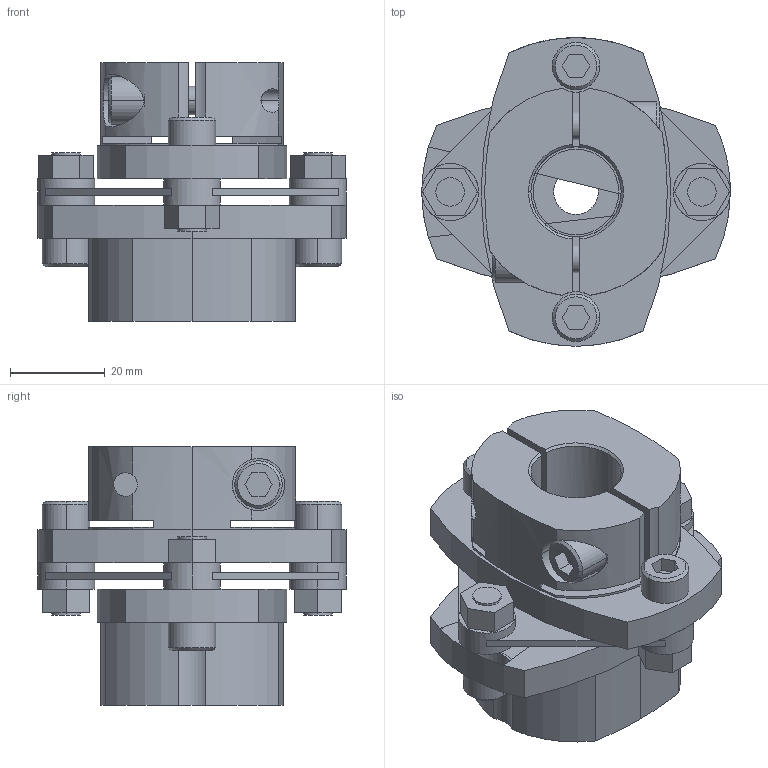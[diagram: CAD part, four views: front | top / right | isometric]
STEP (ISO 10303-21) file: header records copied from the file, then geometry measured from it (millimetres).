
FILE_DESCRIPTION((''),'2;1');
FILE_NAME('LCS-65M-11L亊19B.stp','2015-10-28T03:07:20',(''),(''),'AutoCAD STEP 2000i','AutoCAD 2000i',', , ');
FILE_SCHEMA(('CONFIG_CONTROL_DESIGN'));
Length unit declared in the file: millimetre
Products named in the file (7): LCS-65M-11L×16B; 忣兜1; LC65-B016; LC65M-L011; LC65-B014-1; LC65-B014; LCS65-ITA
Assembly tree (6 placements, depth 2):
  LCS-65M-11L×16B
    忣兜1
    LC65-B016
    LC65M-L011
    LC65-B014-1
    LC65-B014
    LCS65-ITA
Bounding box: 65 x 65 x 54.5 mm (x, y, z)
Volume: 76312.9 mm3; surface area: 26594.8 mm2
Topology: 1 solids, 1 shells, 228 faces, 602 edges, 394 vertices
Faces by surface type: plane 115, cylinder 92, cone 21
Entity records: 7573 total; most frequent: CARTESIAN_POINT 1539, DIRECTION 1288, ORIENTED_EDGE 1204, EDGE_CURVE 602, AXIS2_PLACEMENT_3D 473, VERTEX_POINT 394, VECTOR 342, LINE 342
